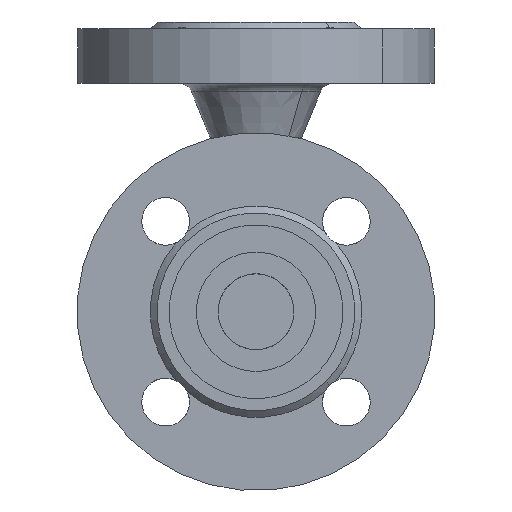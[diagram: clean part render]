
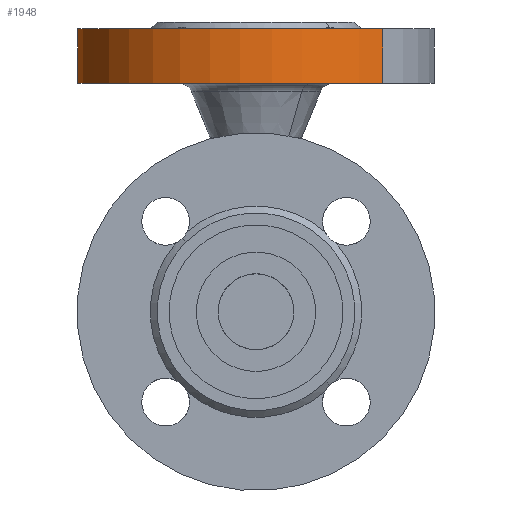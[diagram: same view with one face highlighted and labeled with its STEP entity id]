
A CAD part, front view. The second image highlights one B-rep face of the part: STEP entity #1948.
In plain terms, the highlighted cylindrical face has radius 52.5 mm (diameter 105 mm), a partial arc.
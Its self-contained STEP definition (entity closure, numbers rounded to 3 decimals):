
#16444 = EDGE_CURVE ( 'NONE', #16257, #17762, #12549, .T. ) ;
#16816 = CARTESIAN_POINT ( 'NONE',  ( -52.5, 18., 0. ) ) ;
#517 = CARTESIAN_POINT ( 'NONE',  ( 52.5, 2., 0. ) ) ;
#16961 = CARTESIAN_POINT ( 'NONE',  ( 52.5, 18., 0. ) ) ;
#17028 = FACE_OUTER_BOUND ( 'NONE', #1565, .T. ) ;
#17029 = CYLINDRICAL_SURFACE ( 'NONE', #17030, 52.5 ) ;
#17030 = AXIS2_PLACEMENT_3D ( 'NONE', #17031, #17032, #17033 ) ;
#17031 = CARTESIAN_POINT ( 'NONE',  ( 0., 75., 0. ) ) ;
#17032 = DIRECTION ( 'NONE',  ( 0., 1., 0. ) ) ;
#17033 = DIRECTION ( 'NONE',  ( -1., 0., 0. ) ) ;
#749 = EDGE_CURVE ( 'NONE', #16257, #1583, #16146, .T. ) ;
#1110 = ORIENTED_EDGE ( 'NONE', *, *, #749, .F. ) ;
#17762 = VERTEX_POINT ( 'NONE', #517 ) ;
#1565 = EDGE_LOOP ( 'NONE', ( #10949, #13980, #6861, #1110 ) ) ;
#1583 = VERTEX_POINT ( 'NONE', #16816 ) ;
#1948 = ADVANCED_FACE ( 'NONE', ( #17028 ), #17029, .T. ) ;
#4772 = LINE ( 'NONE', #4773, #4774 ) ;
#4773 = CARTESIAN_POINT ( 'NONE',  ( 52.5, 75., 0. ) ) ;
#4774 = VECTOR ( 'NONE', #4775, 1000. ) ;
#4775 = DIRECTION ( 'NONE',  ( 0., 1., 0. ) ) ;
#6501 = EDGE_CURVE ( 'NONE', #1583, #11146, #6998, .T. ) ;
#6861 = ORIENTED_EDGE ( 'NONE', *, *, #6501, .F. ) ;
#6998 = CIRCLE ( 'NONE', #6999, 52.5 ) ;
#6999 = AXIS2_PLACEMENT_3D ( 'NONE', #7000, #7001, #7002 ) ;
#7000 = CARTESIAN_POINT ( 'NONE',  ( 0., 18., 0. ) ) ;
#7001 = DIRECTION ( 'NONE',  ( 0., 1., 0. ) ) ;
#7002 = DIRECTION ( 'NONE',  ( -1., 0., 0. ) ) ;
#7407 = CARTESIAN_POINT ( 'NONE',  ( -52.5, 2., 0. ) ) ;
#10949 = ORIENTED_EDGE ( 'NONE', *, *, #16444, .T. ) ;
#11146 = VERTEX_POINT ( 'NONE', #16961 ) ;
#12549 = CIRCLE ( 'NONE', #12550, 52.5 ) ;
#12550 = AXIS2_PLACEMENT_3D ( 'NONE', #12551, #12552, #12553 ) ;
#12551 = CARTESIAN_POINT ( 'NONE',  ( 0., 2., 0. ) ) ;
#12552 = DIRECTION ( 'NONE',  ( 0., 1., 0. ) ) ;
#12553 = DIRECTION ( 'NONE',  ( -1., 0., 0. ) ) ;
#13891 = EDGE_CURVE ( 'NONE', #17762, #11146, #4772, .T. ) ;
#13980 = ORIENTED_EDGE ( 'NONE', *, *, #13891, .T. ) ;
#16146 = LINE ( 'NONE', #16147, #16148 ) ;
#16147 = CARTESIAN_POINT ( 'NONE',  ( -52.5, 75., 0. ) ) ;
#16148 = VECTOR ( 'NONE', #16149, 1000. ) ;
#16149 = DIRECTION ( 'NONE',  ( 0., 1., 0. ) ) ;
#16257 = VERTEX_POINT ( 'NONE', #7407 ) ;
